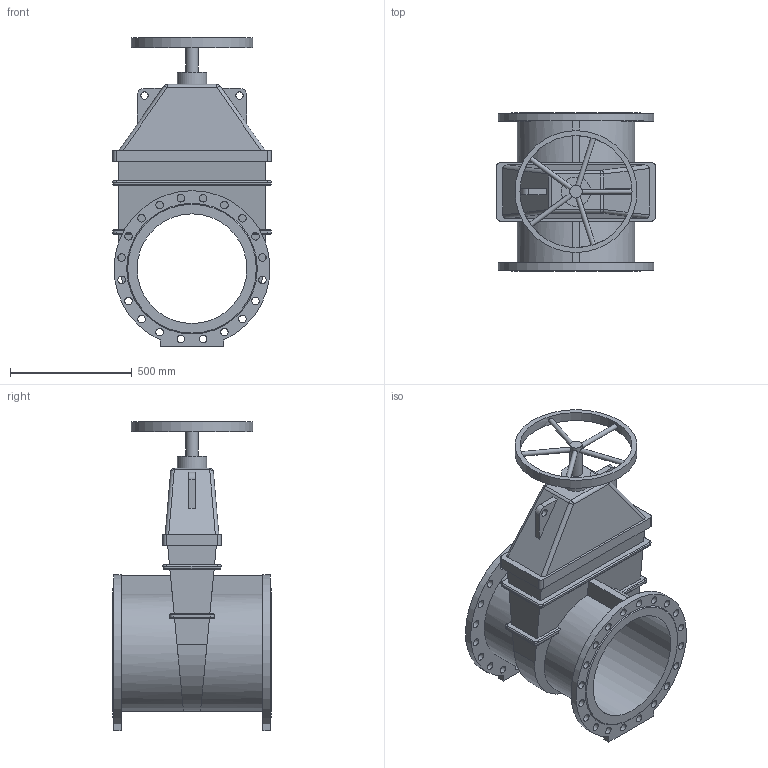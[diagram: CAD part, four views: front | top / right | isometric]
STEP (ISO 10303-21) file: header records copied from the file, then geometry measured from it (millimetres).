
FILE_DESCRIPTION(('STEP AP203'), '1');
FILE_NAME('Çàäâèæêà 47GV DN450 PN16_L650 ñ ìàõîâèêîì', '', ('UNSPECIFIED'), ('UNSPECIFIED'), 'ASCON STEP Converter 1.6', 'ASCON Math Kernel', '');
FILE_SCHEMA(('CONFIG_CONTROL_DESIGN'));
Length unit declared in the file: millimetre
Bounding box: 650 x 650 x 1269 mm (x, y, z)
Volume: 88463324 mm3; surface area: 4032060.1 mm2
Topology: 1 solids, 1 shells, 211 faces, 537 edges, 340 vertices
Faces by surface type: cylinder 107, plane 82, bspline 12, torus 8, cone 2
Full cylindrical faces by diameter (mm): 20 x5, 30 x2, 31 x40, 50 x1, 120 x1, 450 x1, 460 x1, 500 x1
Entity records: 10359 total; most frequent: CARTESIAN_POINT 3584, DIRECTION 1020, ORIENTED_EDGE 956, EDGE_CURVE 478, AXIS2_PLACEMENT_3D 394, EDGE_LOOP 378, VERTEX_POINT 340, FACE_BOUND 271
